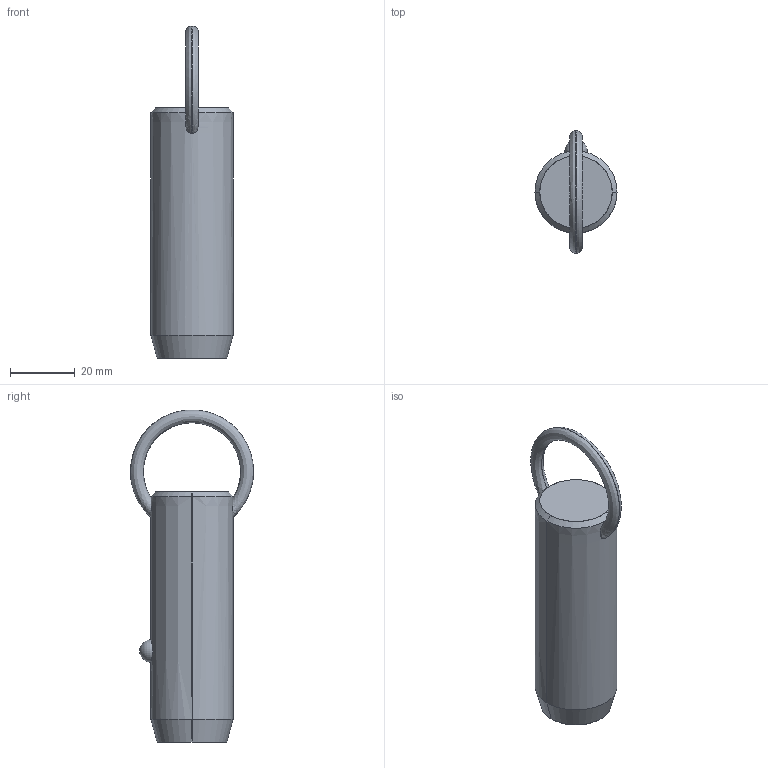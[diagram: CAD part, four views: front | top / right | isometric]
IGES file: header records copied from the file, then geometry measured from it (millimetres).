
Start section: SolidWorks IGES file using analytic representation for surfaces
Global section: file name: C:\Users\liam_\OneDrive\Documents\WORK\Work for WixRoyd\Job Files\J-00019 - Matt Davis CAD Checking\04. CAD Drawings\automotion20190605\P1250.2_v2\P1250.2_v2_20190729_IGES\P1250.100-130.igs; native system: SolidWorks 2017; preprocessor: SolidWorks 2017; author: liam_; date: 190730.173318; units: millimetre
Bounding box: 25.4 x 38.1 x 102.78 mm (x, y, z)
Surface area: 7949.6 mm2 (no closed solid volume)
Topology: 0 solids, 0 shells, 12 faces, 298 edges, 296 vertices
Faces by surface type: revolution 8, bspline 4
